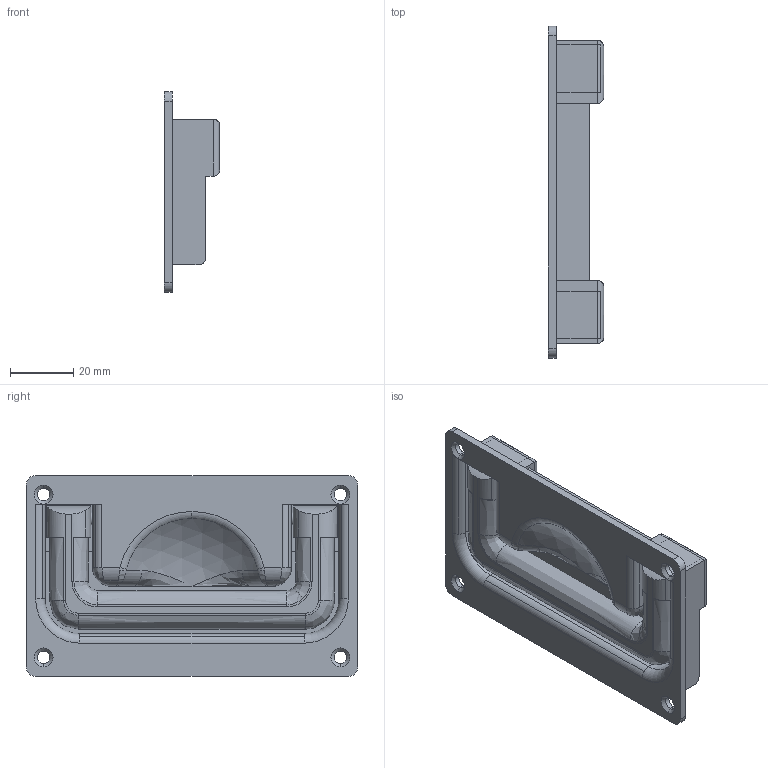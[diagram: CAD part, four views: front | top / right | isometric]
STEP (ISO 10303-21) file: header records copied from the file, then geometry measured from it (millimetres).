
FILE_DESCRIPTION((''),'2;1');
FILE_NAME('6440.stp','2023-10-09T15:09:52',(''),(''),'Mechanical Desktop 2006','Mechanical Desktop 2006',', , ');
FILE_SCHEMA(('CONFIG_CONTROL_DESIGN'));
Length unit declared in the file: millimetre
Products named in the file (3): 6440.70; TEIL1; TEIL2
Assembly tree (2 placements, depth 2):
  6440.70
    TEIL1
    TEIL2
Bounding box: 17.5 x 105 x 63.5 mm (x, y, z)
Volume: 51982.9 mm3; surface area: 26797.9 mm2
Topology: 2 solids, 2 shells, 161 faces, 424 edges, 263 vertices
Faces by surface type: cylinder 71, plane 51, bspline 22, torus 8, cone 8, sphere 1
Entity records: 7009 total; most frequent: CARTESIAN_POINT 2920, DIRECTION 841, ORIENTED_EDGE 836, EDGE_CURVE 418, AXIS2_PLACEMENT_3D 321, VERTEX_POINT 263, VECTOR 199, LINE 199
